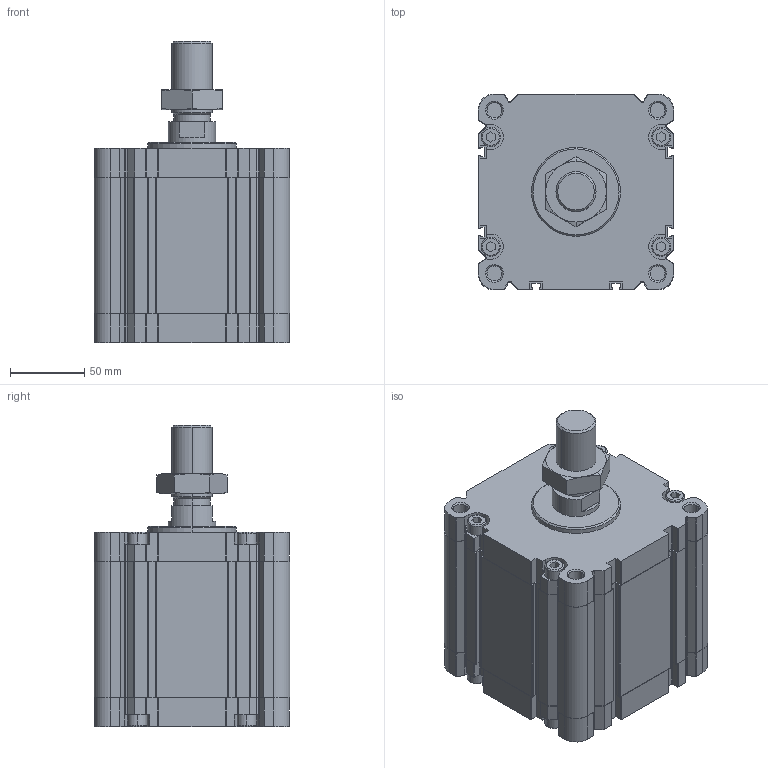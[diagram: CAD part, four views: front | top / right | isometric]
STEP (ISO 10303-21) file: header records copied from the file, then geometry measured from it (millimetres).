
FILE_DESCRIPTION (( 'STEP AP203' ), '1' );
FILE_NAME ('CDVU125-50.STEP', '2020-03-19T11:43:48', ( '' ), ( '' ), 'SwSTEP 2.0', 'SolidWorks 2019', '' );
FILE_SCHEMA (( 'CONFIG_CONTROL_DESIGN' ));
Length unit declared in the file: millimetre
Products named in the file (1): CDVU125-50
Bounding box: 132 x 132 x 203 mm (x, y, z)
Volume: 1676050 mm3; surface area: 224096.6 mm2
Topology: 3 solids, 3 shells, 666 faces, 1810 edges, 1180 vertices
Faces by surface type: plane 324, cylinder 270, cone 56, torus 16
Entity records: 21537 total; most frequent: CARTESIAN_POINT 4097, DIRECTION 3754, ORIENTED_EDGE 3612, EDGE_CURVE 1806, AXIS2_PLACEMENT_3D 1293, VERTEX_POINT 1180, LINE 1168, VECTOR 1168
